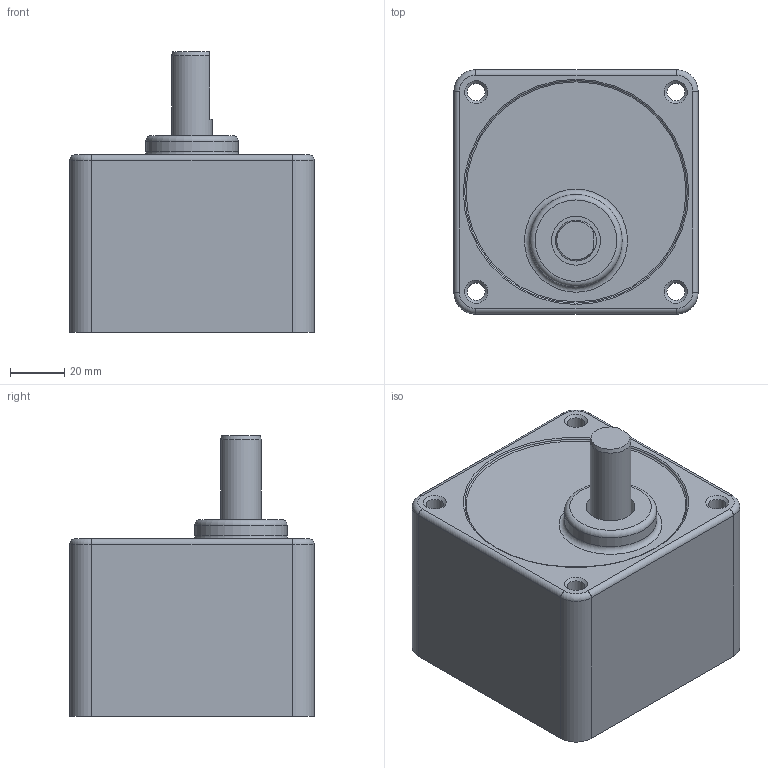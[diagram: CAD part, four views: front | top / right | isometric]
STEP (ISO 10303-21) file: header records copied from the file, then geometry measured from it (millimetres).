
FILE_DESCRIPTION((''),'2;1');
FILE_NAME('D:\STP파일\GEAR HEAD\60W\S9DC3~200.stp','2013-05-20T19:17:13',('leebh'),(''),'Autodesk Inventor 2011','Autodesk Inventor 2011','');
FILE_SCHEMA(('AUTOMOTIVE_DESIGN { 1 0 10303 214 1 1 1 1 }'));
Length unit declared in the file: millimetre
Products named in the file (1): S9I90G-T1
Bounding box: 90 x 90 x 103.5 mm (x, y, z)
Volume: 503197.4 mm3; surface area: 48339.8 mm2
Topology: 1 solids, 1 shells, 44 faces, 93 edges, 57 vertices
Faces by surface type: cylinder 17, plane 14, torus 8, cone 5
Full cylindrical faces by diameter (mm): 6.5 x4, 12 x1, 15 x1, 18 x1, 34 x1, 83 x1
Entity records: 1132 total; most frequent: DIRECTION 212, CARTESIAN_POINT 180, ORIENTED_EDGE 150, AXIS2_PLACEMENT_3D 94, EDGE_CURVE 75, EDGE_LOOP 75, VERTEX_POINT 56, CIRCLE 49
